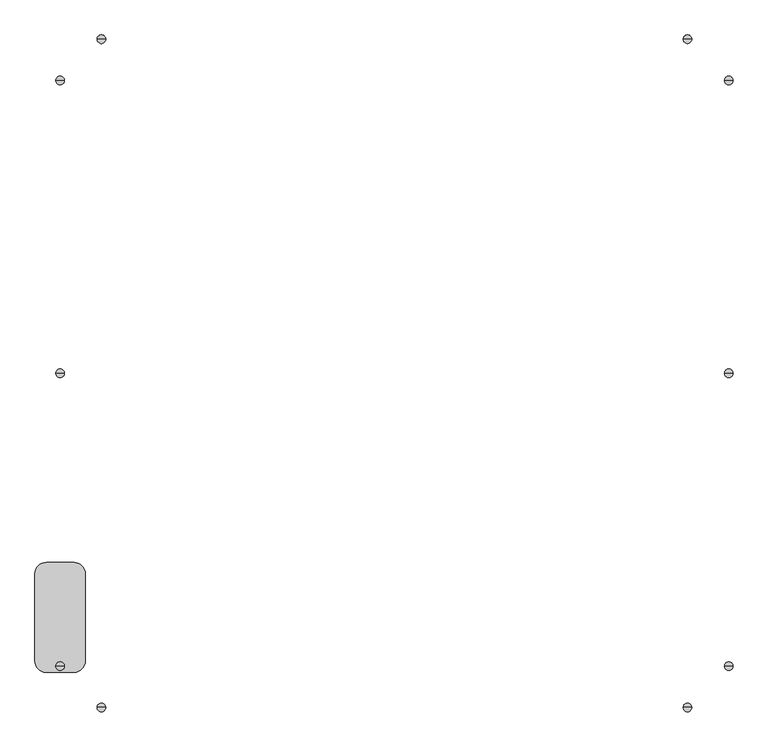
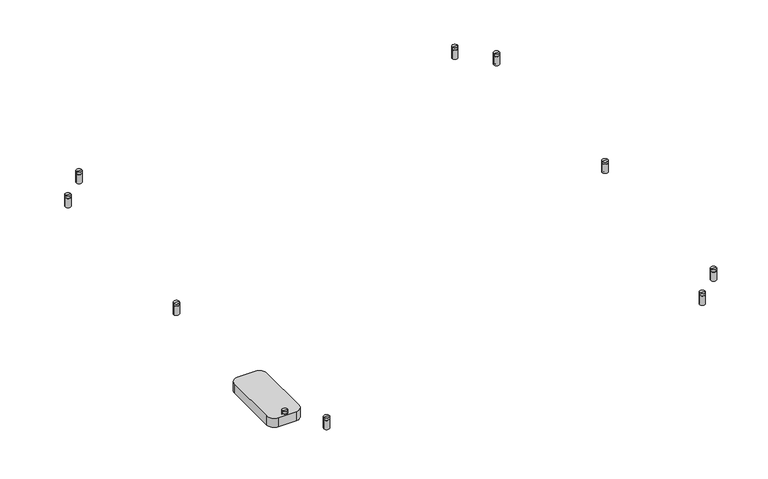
"""IFC4 building model written with IfcOpenShell, lengths in millimetres: light fixture geometry, ARTEMIDE-AoL-StandAlone-SquareRectangular_WallCeiling : StandALone_WallCeiling_SquareRectangular-1911x1911mm 14020lm 3000K."""

from ifc_helpers import new_model, si_unit, point, frame, frame_2d, origin, origin_with_axes, place, context, project, spatial, polyline, circle_curve, trimmed, segment, composite_curve, outline, extrude, source, transform, mapped, element, save
from ifc_brep_helpers import plane_surface, cylinder_surface, advanced_brep


def light_fixture_e9915f3b(model_context):
    return source(origin(), model_context, "Body", "SolidModel", [
        advanced_brep(
        [(152.0, 1746.0, 1.0), (128.0, 1746.0, 1.0), (134.5, 1746.0, 1.0), (145.5, 1746.0, 1.0), (152.0, 1746.0, 42.5), (128.0, 1746.0, 42.5), (149.5243756, 1746.0, 42.5), (130.4756244, 1746.0, 42.5), (149.5243756, 1746.0, 43.4995055), (130.4756244, 1746.0, 43.4995055), (152.0, 1746.0, 43.4995055), (128.0, 1746.0, 43.4995055), (152.0, 1746.0, 52.9579379), (128.0, 1746.0, 52.9579379), (140.0, 1746.0, 52.9579379), (145.5, 1746.0, 0.0), (134.5, 1746.0, 0.0), (140.0, 1746.0, 0.0)],
        [
            (0, 1, circle_curve(frame((140.0, 1746.0, 1.0), z_axis=(0.0, 0.0, -1.0), x_axis=(-1.0, 0.0, 0.0)), 12.0)),
            (1, 2),
            (2, 3, circle_curve(frame((140.0, 1746.0, 1.0), z_axis=(0.0, 0.0, 1.0), x_axis=(-1.0, 0.0, 0.0)), 5.5)),
            (3, 0),
            (1, 0, circle_curve(frame((140.0, 1746.0, 1.0), z_axis=(0.0, 0.0, -1.0), x_axis=(-1.0, 0.0, 0.0)), 12.0)),
            (3, 2, circle_curve(frame((140.0, 1746.0, 1.0), z_axis=(0.0, 0.0, 1.0), x_axis=(-1.0, 0.0, 0.0)), 5.5)),
            (4, 5, circle_curve(frame((140.0, 1746.0, 42.5), z_axis=(0.0, 0.0, -1.0), x_axis=(-1.0, 0.0, 0.0)), 12.0)),
            (5, 1),
            (0, 4),
            (5, 4, circle_curve(frame((140.0, 1746.0, 42.5), z_axis=(0.0, 0.0, -1.0), x_axis=(-1.0, 0.0, 0.0)), 12.0)),
            (6, 7, circle_curve(frame((140.0, 1746.0, 42.5), z_axis=(0.0, 0.0, -1.0), x_axis=(-1.0, 0.0, 0.0)), 9.5243756)),
            (7, 5),
            (4, 6),
            (7, 6, circle_curve(frame((140.0, 1746.0, 42.5), z_axis=(0.0, 0.0, -1.0), x_axis=(-1.0, 0.0, 0.0)), 9.5243756)),
            (8, 9, circle_curve(frame((140.0, 1746.0, 43.4995055), z_axis=(0.0, 0.0, -1.0), x_axis=(-1.0, 0.0, 0.0)), 9.5243756)),
            (9, 7),
            (6, 8),
            (9, 8, circle_curve(frame((140.0, 1746.0, 43.4995055), z_axis=(0.0, 0.0, -1.0), x_axis=(-1.0, 0.0, 0.0)), 9.5243756)),
            (10, 11, circle_curve(frame((140.0, 1746.0, 43.4995055), z_axis=(0.0, 0.0, -1.0), x_axis=(-1.0, 0.0, 0.0)), 12.0)),
            (11, 9),
            (8, 10),
            (11, 10, circle_curve(frame((140.0, 1746.0, 43.4995055), z_axis=(0.0, 0.0, -1.0), x_axis=(-1.0, 0.0, 0.0)), 12.0)),
            (12, 13, circle_curve(frame((140.0, 1746.0, 52.9579379), z_axis=(0.0, 0.0, -1.0), x_axis=(-1.0, 0.0, 0.0)), 12.0)),
            (13, 11),
            (10, 12),
            (13, 12, circle_curve(frame((140.0, 1746.0, 52.9579379), z_axis=(0.0, 0.0, -1.0), x_axis=(-1.0, 0.0, 0.0)), 12.0)),
            (14, 13),
            (12, 14),
            (15, 16, circle_curve(frame((140.0, 1746.0, 0.0), z_axis=(0.0, 0.0, -1.0), x_axis=(-1.0, 0.0, 0.0)), 5.5)),
            (16, 17),
            (17, 15),
            (16, 15, circle_curve(frame((140.0, 1746.0, 0.0), z_axis=(0.0, 0.0, -1.0), x_axis=(-1.0, 0.0, 0.0)), 5.5)),
            (2, 16),
            (15, 3),
        ],
        [
            plane_surface(frame((140.0, 1746.0, 1.0), z_axis=(0.0, 0.0, -1.0), x_axis=(-1.0, 0.0, 0.0))),
            cylinder_surface(frame((140.0, 1746.0, -58.83358), z_axis=(0.0, 0.0, 1.0), x_axis=(-1.0, 0.0, 0.0)), 12.0),
            plane_surface(frame((140.0, 1746.0, 42.5), z_axis=(0.0, 0.0, 1.0), x_axis=(-1.0, 0.0, 0.0))),
            cylinder_surface(frame((140.0, 1746.0, -58.83358), z_axis=(0.0, 0.0, 1.0), x_axis=(-1.0, 0.0, 0.0)), 9.5243756),
            plane_surface(frame((140.0, 1746.0, 43.4995055), z_axis=(0.0, 0.0, -1.0), x_axis=(-1.0, 0.0, 0.0))),
            plane_surface(frame((140.0, 1746.0, 52.9579379), z_axis=(0.0, 0.0, 1.0), x_axis=(-1.0, 0.0, 0.0))),
            plane_surface(frame((140.0, 1746.0, 0.0), z_axis=(0.0, 0.0, -1.0), x_axis=(-1.0, 0.0, 0.0))),
            cylinder_surface(frame((140.0, 1746.0, -58.83358), z_axis=(0.0, 0.0, 1.0), x_axis=(-1.0, 0.0, 0.0)), 5.5),
        ],
        [
            (0, [[1, 2, 3, 4]]),
            (0, [[5, -4, 6, -2]]),
            (1, [[7, 8, -1, 9]]),
            (1, [[10, -9, -5, -8]]),
            (2, [[11, 12, -7, 13]]),
            (2, [[14, -13, -10, -12]]),
            (3, [[15, 16, -11, 17]]),
            (3, [[18, -17, -14, -16]]),
            (4, [[19, 20, -15, 21]]),
            (4, [[22, -21, -18, -20]]),
            (1, [[23, 24, -19, 25]]),
            (1, [[26, -25, -22, -24]]),
            (5, [[27, -23, 28]]),
            (5, [[-28, -26, -27]]),
            (6, [[29, 30, 31]]),
            (6, [[32, -31, -30]]),
            (7, [[-3, 33, -29, 34]]),
            (7, [[-6, -34, -32, -33]]),
        ],
    ),
        advanced_brep(
        [(152.0, -115.0, 1.0), (128.0, -115.0, 1.0), (134.5, -115.0, 1.0), (145.5, -115.0, 1.0), (152.0, -115.0, 42.5), (128.0, -115.0, 42.5), (149.5243756, -115.0, 42.5), (130.4756244, -115.0, 42.5), (149.5243756, -115.0, 43.4995055), (130.4756244, -115.0, 43.4995055), (152.0, -115.0, 43.4995055), (128.0, -115.0, 43.4995055), (152.0, -115.0, 52.9579379), (128.0, -115.0, 52.9579379), (140.0, -115.0, 52.9579379), (145.5, -115.0, 0.0), (134.5, -115.0, 0.0), (140.0, -115.0, 0.0)],
        [
            (0, 1, circle_curve(frame((140.0, -115.0, 1.0), z_axis=(0.0, 0.0, -1.0), x_axis=(-1.0, 0.0, 0.0)), 12.0)),
            (1, 2),
            (2, 3, circle_curve(frame((140.0, -115.0, 1.0), z_axis=(0.0, 0.0, 1.0), x_axis=(-1.0, 0.0, 0.0)), 5.5)),
            (3, 0),
            (1, 0, circle_curve(frame((140.0, -115.0, 1.0), z_axis=(0.0, 0.0, -1.0), x_axis=(-1.0, 0.0, 0.0)), 12.0)),
            (3, 2, circle_curve(frame((140.0, -115.0, 1.0), z_axis=(0.0, 0.0, 1.0), x_axis=(-1.0, 0.0, 0.0)), 5.5)),
            (4, 5, circle_curve(frame((140.0, -115.0, 42.5), z_axis=(0.0, 0.0, -1.0), x_axis=(-1.0, 0.0, 0.0)), 12.0)),
            (5, 1),
            (0, 4),
            (5, 4, circle_curve(frame((140.0, -115.0, 42.5), z_axis=(0.0, 0.0, -1.0), x_axis=(-1.0, 0.0, 0.0)), 12.0)),
            (6, 7, circle_curve(frame((140.0, -115.0, 42.5), z_axis=(0.0, 0.0, -1.0), x_axis=(-1.0, 0.0, 0.0)), 9.5243756)),
            (7, 5),
            (4, 6),
            (7, 6, circle_curve(frame((140.0, -115.0, 42.5), z_axis=(0.0, 0.0, -1.0), x_axis=(-1.0, 0.0, 0.0)), 9.5243756)),
            (8, 9, circle_curve(frame((140.0, -115.0, 43.4995055), z_axis=(0.0, 0.0, -1.0), x_axis=(-1.0, 0.0, 0.0)), 9.5243756)),
            (9, 7),
            (6, 8),
            (9, 8, circle_curve(frame((140.0, -115.0, 43.4995055), z_axis=(0.0, 0.0, -1.0), x_axis=(-1.0, 0.0, 0.0)), 9.5243756)),
            (10, 11, circle_curve(frame((140.0, -115.0, 43.4995055), z_axis=(0.0, 0.0, -1.0), x_axis=(-1.0, 0.0, 0.0)), 12.0)),
            (11, 9),
            (8, 10),
            (11, 10, circle_curve(frame((140.0, -115.0, 43.4995055), z_axis=(0.0, 0.0, -1.0), x_axis=(-1.0, 0.0, 0.0)), 12.0)),
            (12, 13, circle_curve(frame((140.0, -115.0, 52.9579379), z_axis=(0.0, 0.0, -1.0), x_axis=(-1.0, 0.0, 0.0)), 12.0)),
            (13, 11),
            (10, 12),
            (13, 12, circle_curve(frame((140.0, -115.0, 52.9579379), z_axis=(0.0, 0.0, -1.0), x_axis=(-1.0, 0.0, 0.0)), 12.0)),
            (14, 13),
            (12, 14),
            (15, 16, circle_curve(frame((140.0, -115.0, 0.0), z_axis=(0.0, 0.0, -1.0), x_axis=(-1.0, 0.0, 0.0)), 5.5)),
            (16, 17),
            (17, 15),
            (16, 15, circle_curve(frame((140.0, -115.0, 0.0), z_axis=(0.0, 0.0, -1.0), x_axis=(-1.0, 0.0, 0.0)), 5.5)),
            (2, 16),
            (15, 3),
        ],
        [
            plane_surface(frame((140.0, -115.0, 1.0), z_axis=(0.0, 0.0, -1.0), x_axis=(-1.0, 0.0, 0.0))),
            cylinder_surface(frame((140.0, -115.0, -58.83358), z_axis=(0.0, 0.0, 1.0), x_axis=(-1.0, 0.0, 0.0)), 12.0),
            plane_surface(frame((140.0, -115.0, 42.5), z_axis=(0.0, 0.0, 1.0), x_axis=(-1.0, 0.0, 0.0))),
            cylinder_surface(frame((140.0, -115.0, -58.83358), z_axis=(0.0, 0.0, 1.0), x_axis=(-1.0, 0.0, 0.0)), 9.5243756),
            plane_surface(frame((140.0, -115.0, 43.4995055), z_axis=(0.0, 0.0, -1.0), x_axis=(-1.0, 0.0, 0.0))),
            plane_surface(frame((140.0, -115.0, 52.9579379), z_axis=(0.0, 0.0, 1.0), x_axis=(-1.0, 0.0, 0.0))),
            plane_surface(frame((140.0, -115.0, 0.0), z_axis=(0.0, 0.0, -1.0), x_axis=(-1.0, 0.0, 0.0))),
            cylinder_surface(frame((140.0, -115.0, -58.83358), z_axis=(0.0, 0.0, 1.0), x_axis=(-1.0, 0.0, 0.0)), 5.5),
        ],
        [
            (0, [[1, 2, 3, 4]]),
            (0, [[5, -4, 6, -2]]),
            (1, [[7, 8, -1, 9]]),
            (1, [[10, -9, -5, -8]]),
            (2, [[11, 12, -7, 13]]),
            (2, [[14, -13, -10, -12]]),
            (3, [[15, 16, -11, 17]]),
            (3, [[18, -17, -14, -16]]),
            (4, [[19, 20, -15, 21]]),
            (4, [[22, -21, -18, -20]]),
            (1, [[23, 24, -19, 25]]),
            (1, [[26, -25, -22, -24]]),
            (5, [[27, -23, 28]]),
            (5, [[-28, -26, -27]]),
            (6, [[29, 30, 31]]),
            (6, [[32, -31, -30]]),
            (7, [[-3, 33, -29, 34]]),
            (7, [[-6, -34, -32, -33]]),
        ],
    ),
        advanced_brep(
        [(1783.0, 1746.0, 1.0), (1759.0, 1746.0, 1.0), (1765.5, 1746.0, 1.0), (1776.5, 1746.0, 1.0), (1783.0, 1746.0, 42.5), (1759.0, 1746.0, 42.5), (1780.5243756, 1746.0, 42.5), (1761.4756244, 1746.0, 42.5), (1780.5243756, 1746.0, 43.4995055), (1761.4756244, 1746.0, 43.4995055), (1783.0, 1746.0, 43.4995055), (1759.0, 1746.0, 43.4995055), (1783.0, 1746.0, 52.9579379), (1759.0, 1746.0, 52.9579379), (1771.0, 1746.0, 52.9579379), (1776.5, 1746.0, 0.0), (1765.5, 1746.0, 0.0), (1771.0, 1746.0, 0.0)],
        [
            (0, 1, circle_curve(frame((1771.0, 1746.0, 1.0), z_axis=(0.0, 0.0, -1.0), x_axis=(-1.0, 0.0, 0.0)), 12.0)),
            (1, 2),
            (2, 3, circle_curve(frame((1771.0, 1746.0, 1.0), z_axis=(0.0, 0.0, 1.0), x_axis=(-1.0, 0.0, 0.0)), 5.5)),
            (3, 0),
            (1, 0, circle_curve(frame((1771.0, 1746.0, 1.0), z_axis=(0.0, 0.0, -1.0), x_axis=(-1.0, 0.0, 0.0)), 12.0)),
            (3, 2, circle_curve(frame((1771.0, 1746.0, 1.0), z_axis=(0.0, 0.0, 1.0), x_axis=(-1.0, 0.0, 0.0)), 5.5)),
            (4, 5, circle_curve(frame((1771.0, 1746.0, 42.5), z_axis=(0.0, 0.0, -1.0), x_axis=(-1.0, 0.0, 0.0)), 12.0)),
            (5, 1),
            (0, 4),
            (5, 4, circle_curve(frame((1771.0, 1746.0, 42.5), z_axis=(0.0, 0.0, -1.0), x_axis=(-1.0, 0.0, 0.0)), 12.0)),
            (6, 7, circle_curve(frame((1771.0, 1746.0, 42.5), z_axis=(0.0, 0.0, -1.0), x_axis=(-1.0, 0.0, 0.0)), 9.5243756)),
            (7, 5),
            (4, 6),
            (7, 6, circle_curve(frame((1771.0, 1746.0, 42.5), z_axis=(0.0, 0.0, -1.0), x_axis=(-1.0, 0.0, 0.0)), 9.5243756)),
            (8, 9, circle_curve(frame((1771.0, 1746.0, 43.4995055), z_axis=(0.0, 0.0, -1.0), x_axis=(-1.0, 0.0, 0.0)), 9.5243756)),
            (9, 7),
            (6, 8),
            (9, 8, circle_curve(frame((1771.0, 1746.0, 43.4995055), z_axis=(0.0, 0.0, -1.0), x_axis=(-1.0, 0.0, 0.0)), 9.5243756)),
            (10, 11, circle_curve(frame((1771.0, 1746.0, 43.4995055), z_axis=(0.0, 0.0, -1.0), x_axis=(-1.0, 0.0, 0.0)), 12.0)),
            (11, 9),
            (8, 10),
            (11, 10, circle_curve(frame((1771.0, 1746.0, 43.4995055), z_axis=(0.0, 0.0, -1.0), x_axis=(-1.0, 0.0, 0.0)), 12.0)),
            (12, 13, circle_curve(frame((1771.0, 1746.0, 52.9579379), z_axis=(0.0, 0.0, -1.0), x_axis=(-1.0, 0.0, 0.0)), 12.0)),
            (13, 11),
            (10, 12),
            (13, 12, circle_curve(frame((1771.0, 1746.0, 52.9579379), z_axis=(0.0, 0.0, -1.0), x_axis=(-1.0, 0.0, 0.0)), 12.0)),
            (14, 13),
            (12, 14),
            (15, 16, circle_curve(frame((1771.0, 1746.0, 0.0), z_axis=(0.0, 0.0, -1.0), x_axis=(-1.0, 0.0, 0.0)), 5.5)),
            (16, 17),
            (17, 15),
            (16, 15, circle_curve(frame((1771.0, 1746.0, 0.0), z_axis=(0.0, 0.0, -1.0), x_axis=(-1.0, 0.0, 0.0)), 5.5)),
            (2, 16),
            (15, 3),
        ],
        [
            plane_surface(frame((1771.0, 1746.0, 1.0), z_axis=(0.0, 0.0, -1.0), x_axis=(-1.0, 0.0, 0.0))),
            cylinder_surface(frame((1771.0, 1746.0, -58.83358), z_axis=(0.0, 0.0, 1.0), x_axis=(-1.0, 0.0, 0.0)), 12.0),
            plane_surface(frame((1771.0, 1746.0, 42.5), z_axis=(0.0, 0.0, 1.0), x_axis=(-1.0, 0.0, 0.0))),
            cylinder_surface(frame((1771.0, 1746.0, -58.83358), z_axis=(0.0, 0.0, 1.0), x_axis=(-1.0, 0.0, 0.0)), 9.5243756),
            plane_surface(frame((1771.0, 1746.0, 43.4995055), z_axis=(0.0, 0.0, -1.0), x_axis=(-1.0, 0.0, 0.0))),
            plane_surface(frame((1771.0, 1746.0, 52.9579379), z_axis=(0.0, 0.0, 1.0), x_axis=(-1.0, 0.0, 0.0))),
            plane_surface(frame((1771.0, 1746.0, 0.0), z_axis=(0.0, 0.0, -1.0), x_axis=(-1.0, 0.0, 0.0))),
            cylinder_surface(frame((1771.0, 1746.0, -58.83358), z_axis=(0.0, 0.0, 1.0), x_axis=(-1.0, 0.0, 0.0)), 5.5),
        ],
        [
            (0, [[1, 2, 3, 4]]),
            (0, [[5, -4, 6, -2]]),
            (1, [[7, 8, -1, 9]]),
            (1, [[10, -9, -5, -8]]),
            (2, [[11, 12, -7, 13]]),
            (2, [[14, -13, -10, -12]]),
            (3, [[15, 16, -11, 17]]),
            (3, [[18, -17, -14, -16]]),
            (4, [[19, 20, -15, 21]]),
            (4, [[22, -21, -18, -20]]),
            (1, [[23, 24, -19, 25]]),
            (1, [[26, -25, -22, -24]]),
            (5, [[27, -23, 28]]),
            (5, [[-28, -26, -27]]),
            (6, [[29, 30, 31]]),
            (6, [[32, -31, -30]]),
            (7, [[-3, 33, -29, 34]]),
            (7, [[-6, -34, -32, -33]]),
        ],
    ),
        advanced_brep(
        [(1783.0, -115.0, 1.0), (1759.0, -115.0, 1.0), (1765.5, -115.0, 1.0), (1776.5, -115.0, 1.0), (1783.0, -115.0, 42.5), (1759.0, -115.0, 42.5), (1780.5243756, -115.0, 42.5), (1761.4756244, -115.0, 42.5), (1780.5243756, -115.0, 43.4995055), (1761.4756244, -115.0, 43.4995055), (1783.0, -115.0, 43.4995055), (1759.0, -115.0, 43.4995055), (1783.0, -115.0, 52.9579379), (1759.0, -115.0, 52.9579379), (1771.0, -115.0, 52.9579379), (1776.5, -115.0, 0.0), (1765.5, -115.0, 0.0), (1771.0, -115.0, 0.0)],
        [
            (0, 1, circle_curve(frame((1771.0, -115.0, 1.0), z_axis=(0.0, 0.0, -1.0), x_axis=(-1.0, 0.0, 0.0)), 12.0)),
            (1, 2),
            (2, 3, circle_curve(frame((1771.0, -115.0, 1.0), z_axis=(0.0, 0.0, 1.0), x_axis=(-1.0, 0.0, 0.0)), 5.5)),
            (3, 0),
            (1, 0, circle_curve(frame((1771.0, -115.0, 1.0), z_axis=(0.0, 0.0, -1.0), x_axis=(-1.0, 0.0, 0.0)), 12.0)),
            (3, 2, circle_curve(frame((1771.0, -115.0, 1.0), z_axis=(0.0, 0.0, 1.0), x_axis=(-1.0, 0.0, 0.0)), 5.5)),
            (4, 5, circle_curve(frame((1771.0, -115.0, 42.5), z_axis=(0.0, 0.0, -1.0), x_axis=(-1.0, 0.0, 0.0)), 12.0)),
            (5, 1),
            (0, 4),
            (5, 4, circle_curve(frame((1771.0, -115.0, 42.5), z_axis=(0.0, 0.0, -1.0), x_axis=(-1.0, 0.0, 0.0)), 12.0)),
            (6, 7, circle_curve(frame((1771.0, -115.0, 42.5), z_axis=(0.0, 0.0, -1.0), x_axis=(-1.0, 0.0, 0.0)), 9.5243756)),
            (7, 5),
            (4, 6),
            (7, 6, circle_curve(frame((1771.0, -115.0, 42.5), z_axis=(0.0, 0.0, -1.0), x_axis=(-1.0, 0.0, 0.0)), 9.5243756)),
            (8, 9, circle_curve(frame((1771.0, -115.0, 43.4995055), z_axis=(0.0, 0.0, -1.0), x_axis=(-1.0, 0.0, 0.0)), 9.5243756)),
            (9, 7),
            (6, 8),
            (9, 8, circle_curve(frame((1771.0, -115.0, 43.4995055), z_axis=(0.0, 0.0, -1.0), x_axis=(-1.0, 0.0, 0.0)), 9.5243756)),
            (10, 11, circle_curve(frame((1771.0, -115.0, 43.4995055), z_axis=(0.0, 0.0, -1.0), x_axis=(-1.0, 0.0, 0.0)), 12.0)),
            (11, 9),
            (8, 10),
            (11, 10, circle_curve(frame((1771.0, -115.0, 43.4995055), z_axis=(0.0, 0.0, -1.0), x_axis=(-1.0, 0.0, 0.0)), 12.0)),
            (12, 13, circle_curve(frame((1771.0, -115.0, 52.9579379), z_axis=(0.0, 0.0, -1.0), x_axis=(-1.0, 0.0, 0.0)), 12.0)),
            (13, 11),
            (10, 12),
            (13, 12, circle_curve(frame((1771.0, -115.0, 52.9579379), z_axis=(0.0, 0.0, -1.0), x_axis=(-1.0, 0.0, 0.0)), 12.0)),
            (14, 13),
            (12, 14),
            (15, 16, circle_curve(frame((1771.0, -115.0, 0.0), z_axis=(0.0, 0.0, -1.0), x_axis=(-1.0, 0.0, 0.0)), 5.5)),
            (16, 17),
            (17, 15),
            (16, 15, circle_curve(frame((1771.0, -115.0, 0.0), z_axis=(0.0, 0.0, -1.0), x_axis=(-1.0, 0.0, 0.0)), 5.5)),
            (2, 16),
            (15, 3),
        ],
        [
            plane_surface(frame((1771.0, -115.0, 1.0), z_axis=(0.0, 0.0, -1.0), x_axis=(-1.0, 0.0, 0.0))),
            cylinder_surface(frame((1771.0, -115.0, -58.83358), z_axis=(0.0, 0.0, 1.0), x_axis=(-1.0, 0.0, 0.0)), 12.0),
            plane_surface(frame((1771.0, -115.0, 42.5), z_axis=(0.0, 0.0, 1.0), x_axis=(-1.0, 0.0, 0.0))),
            cylinder_surface(frame((1771.0, -115.0, -58.83358), z_axis=(0.0, 0.0, 1.0), x_axis=(-1.0, 0.0, 0.0)), 9.5243756),
            plane_surface(frame((1771.0, -115.0, 43.4995055), z_axis=(0.0, 0.0, -1.0), x_axis=(-1.0, 0.0, 0.0))),
            plane_surface(frame((1771.0, -115.0, 52.9579379), z_axis=(0.0, 0.0, 1.0), x_axis=(-1.0, 0.0, 0.0))),
            plane_surface(frame((1771.0, -115.0, 0.0), z_axis=(0.0, 0.0, -1.0), x_axis=(-1.0, 0.0, 0.0))),
            cylinder_surface(frame((1771.0, -115.0, -58.83358), z_axis=(0.0, 0.0, 1.0), x_axis=(-1.0, 0.0, 0.0)), 5.5),
        ],
        [
            (0, [[1, 2, 3, 4]]),
            (0, [[5, -4, 6, -2]]),
            (1, [[7, 8, -1, 9]]),
            (1, [[10, -9, -5, -8]]),
            (2, [[11, 12, -7, 13]]),
            (2, [[14, -13, -10, -12]]),
            (3, [[15, 16, -11, 17]]),
            (3, [[18, -17, -14, -16]]),
            (4, [[19, 20, -15, 21]]),
            (4, [[22, -21, -18, -20]]),
            (1, [[23, 24, -19, 25]]),
            (1, [[26, -25, -22, -24]]),
            (5, [[27, -23, 28]]),
            (5, [[-28, -26, -27]]),
            (6, [[29, 30, 31]]),
            (6, [[32, -31, -30]]),
            (7, [[-3, 33, -29, 34]]),
            (7, [[-6, -34, -32, -33]]),
        ],
    ),
        advanced_brep(
        [(37.0, 1631.0, 1.0), (13.0, 1631.0, 1.0), (19.5, 1631.0, 1.0), (30.5, 1631.0, 1.0), (37.0, 1631.0, 42.5), (13.0, 1631.0, 42.5), (34.5243756, 1631.0, 42.5), (15.4756244, 1631.0, 42.5), (34.5243756, 1631.0, 43.4995055), (15.4756244, 1631.0, 43.4995055), (37.0, 1631.0, 43.4995055), (13.0, 1631.0, 43.4995055), (37.0, 1631.0, 52.9579379), (13.0, 1631.0, 52.9579379), (25.0, 1631.0, 52.9579379), (30.5, 1631.0, 0.0), (19.5, 1631.0, 0.0), (25.0, 1631.0, 0.0)],
        [
            (0, 1, circle_curve(frame((25.0, 1631.0, 1.0), z_axis=(0.0, 0.0, -1.0), x_axis=(-1.0, 0.0, 0.0)), 12.0)),
            (1, 2),
            (2, 3, circle_curve(frame((25.0, 1631.0, 1.0), z_axis=(0.0, 0.0, 1.0), x_axis=(-1.0, 0.0, 0.0)), 5.5)),
            (3, 0),
            (1, 0, circle_curve(frame((25.0, 1631.0, 1.0), z_axis=(0.0, 0.0, -1.0), x_axis=(-1.0, 0.0, 0.0)), 12.0)),
            (3, 2, circle_curve(frame((25.0, 1631.0, 1.0), z_axis=(0.0, 0.0, 1.0), x_axis=(-1.0, 0.0, 0.0)), 5.5)),
            (4, 5, circle_curve(frame((25.0, 1631.0, 42.5), z_axis=(0.0, 0.0, -1.0), x_axis=(-1.0, 0.0, 0.0)), 12.0)),
            (5, 1),
            (0, 4),
            (5, 4, circle_curve(frame((25.0, 1631.0, 42.5), z_axis=(0.0, 0.0, -1.0), x_axis=(-1.0, 0.0, 0.0)), 12.0)),
            (6, 7, circle_curve(frame((25.0, 1631.0, 42.5), z_axis=(0.0, 0.0, -1.0), x_axis=(-1.0, 0.0, 0.0)), 9.5243756)),
            (7, 5),
            (4, 6),
            (7, 6, circle_curve(frame((25.0, 1631.0, 42.5), z_axis=(0.0, 0.0, -1.0), x_axis=(-1.0, 0.0, 0.0)), 9.5243756)),
            (8, 9, circle_curve(frame((25.0, 1631.0, 43.4995055), z_axis=(0.0, 0.0, -1.0), x_axis=(-1.0, 0.0, 0.0)), 9.5243756)),
            (9, 7),
            (6, 8),
            (9, 8, circle_curve(frame((25.0, 1631.0, 43.4995055), z_axis=(0.0, 0.0, -1.0), x_axis=(-1.0, 0.0, 0.0)), 9.5243756)),
            (10, 11, circle_curve(frame((25.0, 1631.0, 43.4995055), z_axis=(0.0, 0.0, -1.0), x_axis=(-1.0, 0.0, 0.0)), 12.0)),
            (11, 9),
            (8, 10),
            (11, 10, circle_curve(frame((25.0, 1631.0, 43.4995055), z_axis=(0.0, 0.0, -1.0), x_axis=(-1.0, 0.0, 0.0)), 12.0)),
            (12, 13, circle_curve(frame((25.0, 1631.0, 52.9579379), z_axis=(0.0, 0.0, -1.0), x_axis=(-1.0, 0.0, 0.0)), 12.0)),
            (13, 11),
            (10, 12),
            (13, 12, circle_curve(frame((25.0, 1631.0, 52.9579379), z_axis=(0.0, 0.0, -1.0), x_axis=(-1.0, 0.0, 0.0)), 12.0)),
            (14, 13),
            (12, 14),
            (15, 16, circle_curve(frame((25.0, 1631.0, 0.0), z_axis=(0.0, 0.0, -1.0), x_axis=(-1.0, 0.0, 0.0)), 5.5)),
            (16, 17),
            (17, 15),
            (16, 15, circle_curve(frame((25.0, 1631.0, 0.0), z_axis=(0.0, 0.0, -1.0), x_axis=(-1.0, 0.0, 0.0)), 5.5)),
            (2, 16),
            (15, 3),
        ],
        [
            plane_surface(frame((25.0, 1631.0, 1.0), z_axis=(0.0, 0.0, -1.0), x_axis=(-1.0, 0.0, 0.0))),
            cylinder_surface(frame((25.0, 1631.0, -58.83358), z_axis=(0.0, 0.0, 1.0), x_axis=(-1.0, 0.0, 0.0)), 12.0),
            plane_surface(frame((25.0, 1631.0, 42.5), z_axis=(0.0, 0.0, 1.0), x_axis=(-1.0, 0.0, 0.0))),
            cylinder_surface(frame((25.0, 1631.0, -58.83358), z_axis=(0.0, 0.0, 1.0), x_axis=(-1.0, 0.0, 0.0)), 9.5243756),
            plane_surface(frame((25.0, 1631.0, 43.4995055), z_axis=(0.0, 0.0, -1.0), x_axis=(-1.0, 0.0, 0.0))),
            plane_surface(frame((25.0, 1631.0, 52.9579379), z_axis=(0.0, 0.0, 1.0), x_axis=(-1.0, 0.0, 0.0))),
            plane_surface(frame((25.0, 1631.0, 0.0), z_axis=(0.0, 0.0, -1.0), x_axis=(-1.0, 0.0, 0.0))),
            cylinder_surface(frame((25.0, 1631.0, -58.83358), z_axis=(0.0, 0.0, 1.0), x_axis=(-1.0, 0.0, 0.0)), 5.5),
        ],
        [
            (0, [[1, 2, 3, 4]]),
            (0, [[5, -4, 6, -2]]),
            (1, [[7, 8, -1, 9]]),
            (1, [[10, -9, -5, -8]]),
            (2, [[11, 12, -7, 13]]),
            (2, [[14, -13, -10, -12]]),
            (3, [[15, 16, -11, 17]]),
            (3, [[18, -17, -14, -16]]),
            (4, [[19, 20, -15, 21]]),
            (4, [[22, -21, -18, -20]]),
            (1, [[23, 24, -19, 25]]),
            (1, [[26, -25, -22, -24]]),
            (5, [[27, -23, 28]]),
            (5, [[-28, -26, -27]]),
            (6, [[29, 30, 31]]),
            (6, [[32, -31, -30]]),
            (7, [[-3, 33, -29, 34]]),
            (7, [[-6, -34, -32, -33]]),
        ],
    ),
        advanced_brep(
        [(1898.0, 1631.0, 1.0), (1874.0, 1631.0, 1.0), (1880.5, 1631.0, 1.0), (1891.5, 1631.0, 1.0), (1898.0, 1631.0, 42.5), (1874.0, 1631.0, 42.5), (1895.5243756, 1631.0, 42.5), (1876.4756244, 1631.0, 42.5), (1895.5243756, 1631.0, 43.4995055), (1876.4756244, 1631.0, 43.4995055), (1898.0, 1631.0, 43.4995055), (1874.0, 1631.0, 43.4995055), (1898.0, 1631.0, 52.9579379), (1874.0, 1631.0, 52.9579379), (1886.0, 1631.0, 52.9579379), (1891.5, 1631.0, 0.0), (1880.5, 1631.0, 0.0), (1886.0, 1631.0, 0.0)],
        [
            (0, 1, circle_curve(frame((1886.0, 1631.0, 1.0), z_axis=(0.0, 0.0, -1.0), x_axis=(-1.0, 0.0, 0.0)), 12.0)),
            (1, 2),
            (2, 3, circle_curve(frame((1886.0, 1631.0, 1.0), z_axis=(0.0, 0.0, 1.0), x_axis=(-1.0, 0.0, 0.0)), 5.5)),
            (3, 0),
            (1, 0, circle_curve(frame((1886.0, 1631.0, 1.0), z_axis=(0.0, 0.0, -1.0), x_axis=(-1.0, 0.0, 0.0)), 12.0)),
            (3, 2, circle_curve(frame((1886.0, 1631.0, 1.0), z_axis=(0.0, 0.0, 1.0), x_axis=(-1.0, 0.0, 0.0)), 5.5)),
            (4, 5, circle_curve(frame((1886.0, 1631.0, 42.5), z_axis=(0.0, 0.0, -1.0), x_axis=(-1.0, 0.0, 0.0)), 12.0)),
            (5, 1),
            (0, 4),
            (5, 4, circle_curve(frame((1886.0, 1631.0, 42.5), z_axis=(0.0, 0.0, -1.0), x_axis=(-1.0, 0.0, 0.0)), 12.0)),
            (6, 7, circle_curve(frame((1886.0, 1631.0, 42.5), z_axis=(0.0, 0.0, -1.0), x_axis=(-1.0, 0.0, 0.0)), 9.5243756)),
            (7, 5),
            (4, 6),
            (7, 6, circle_curve(frame((1886.0, 1631.0, 42.5), z_axis=(0.0, 0.0, -1.0), x_axis=(-1.0, 0.0, 0.0)), 9.5243756)),
            (8, 9, circle_curve(frame((1886.0, 1631.0, 43.4995055), z_axis=(0.0, 0.0, -1.0), x_axis=(-1.0, 0.0, 0.0)), 9.5243756)),
            (9, 7),
            (6, 8),
            (9, 8, circle_curve(frame((1886.0, 1631.0, 43.4995055), z_axis=(0.0, 0.0, -1.0), x_axis=(-1.0, 0.0, 0.0)), 9.5243756)),
            (10, 11, circle_curve(frame((1886.0, 1631.0, 43.4995055), z_axis=(0.0, 0.0, -1.0), x_axis=(-1.0, 0.0, 0.0)), 12.0)),
            (11, 9),
            (8, 10),
            (11, 10, circle_curve(frame((1886.0, 1631.0, 43.4995055), z_axis=(0.0, 0.0, -1.0), x_axis=(-1.0, 0.0, 0.0)), 12.0)),
            (12, 13, circle_curve(frame((1886.0, 1631.0, 52.9579379), z_axis=(0.0, 0.0, -1.0), x_axis=(-1.0, 0.0, 0.0)), 12.0)),
            (13, 11),
            (10, 12),
            (13, 12, circle_curve(frame((1886.0, 1631.0, 52.9579379), z_axis=(0.0, 0.0, -1.0), x_axis=(-1.0, 0.0, 0.0)), 12.0)),
            (14, 13),
            (12, 14),
            (15, 16, circle_curve(frame((1886.0, 1631.0, 0.0), z_axis=(0.0, 0.0, -1.0), x_axis=(-1.0, 0.0, 0.0)), 5.5)),
            (16, 17),
            (17, 15),
            (16, 15, circle_curve(frame((1886.0, 1631.0, 0.0), z_axis=(0.0, 0.0, -1.0), x_axis=(-1.0, 0.0, 0.0)), 5.5)),
            (2, 16),
            (15, 3),
        ],
        [
            plane_surface(frame((1886.0, 1631.0, 1.0), z_axis=(0.0, 0.0, -1.0), x_axis=(-1.0, 0.0, 0.0))),
            cylinder_surface(frame((1886.0, 1631.0, -58.83358), z_axis=(0.0, 0.0, 1.0), x_axis=(-1.0, 0.0, 0.0)), 12.0),
            plane_surface(frame((1886.0, 1631.0, 42.5), z_axis=(0.0, 0.0, 1.0), x_axis=(-1.0, 0.0, 0.0))),
            cylinder_surface(frame((1886.0, 1631.0, -58.83358), z_axis=(0.0, 0.0, 1.0), x_axis=(-1.0, 0.0, 0.0)), 9.5243756),
            plane_surface(frame((1886.0, 1631.0, 43.4995055), z_axis=(0.0, 0.0, -1.0), x_axis=(-1.0, 0.0, 0.0))),
            plane_surface(frame((1886.0, 1631.0, 52.9579379), z_axis=(0.0, 0.0, 1.0), x_axis=(-1.0, 0.0, 0.0))),
            plane_surface(frame((1886.0, 1631.0, 0.0), z_axis=(0.0, 0.0, -1.0), x_axis=(-1.0, 0.0, 0.0))),
            cylinder_surface(frame((1886.0, 1631.0, -58.83358), z_axis=(0.0, 0.0, 1.0), x_axis=(-1.0, 0.0, 0.0)), 5.5),
        ],
        [
            (0, [[1, 2, 3, 4]]),
            (0, [[5, -4, 6, -2]]),
            (1, [[7, 8, -1, 9]]),
            (1, [[10, -9, -5, -8]]),
            (2, [[11, 12, -7, 13]]),
            (2, [[14, -13, -10, -12]]),
            (3, [[15, 16, -11, 17]]),
            (3, [[18, -17, -14, -16]]),
            (4, [[19, 20, -15, 21]]),
            (4, [[22, -21, -18, -20]]),
            (1, [[23, 24, -19, 25]]),
            (1, [[26, -25, -22, -24]]),
            (5, [[27, -23, 28]]),
            (5, [[-28, -26, -27]]),
            (6, [[29, 30, 31]]),
            (6, [[32, -31, -30]]),
            (7, [[-3, 33, -29, 34]]),
            (7, [[-6, -34, -32, -33]]),
        ],
    ),
        advanced_brep(
        [(37.0, 0.0, 1.0), (13.0, 0.0, 1.0), (19.5, 0.0, 1.0), (30.5, 0.0, 1.0), (37.0, 0.0, 42.5), (13.0, 0.0, 42.5), (34.5243756, 0.0, 42.5), (15.4756244, 0.0, 42.5), (34.5243756, 0.0, 43.4995055), (15.4756244, 0.0, 43.4995055), (37.0, 0.0, 43.4995055), (13.0, 0.0, 43.4995055), (37.0, 0.0, 52.9579379), (13.0, 0.0, 52.9579379), (25.0, 0.0, 52.9579379), (30.5, 0.0, 0.0), (19.5, 0.0, 0.0), (25.0, 0.0, 0.0)],
        [
            (0, 1, circle_curve(frame((25.0, 0.0, 1.0), z_axis=(0.0, 0.0, -1.0), x_axis=(-1.0, 0.0, 0.0)), 12.0)),
            (1, 2),
            (2, 3, circle_curve(frame((25.0, 0.0, 1.0), z_axis=(0.0, 0.0, 1.0), x_axis=(-1.0, 0.0, 0.0)), 5.5)),
            (3, 0),
            (1, 0, circle_curve(frame((25.0, 0.0, 1.0), z_axis=(0.0, 0.0, -1.0), x_axis=(-1.0, 0.0, 0.0)), 12.0)),
            (3, 2, circle_curve(frame((25.0, 0.0, 1.0), z_axis=(0.0, 0.0, 1.0), x_axis=(-1.0, 0.0, 0.0)), 5.5)),
            (4, 5, circle_curve(frame((25.0, 0.0, 42.5), z_axis=(0.0, 0.0, -1.0), x_axis=(-1.0, 0.0, 0.0)), 12.0)),
            (5, 1),
            (0, 4),
            (5, 4, circle_curve(frame((25.0, 0.0, 42.5), z_axis=(0.0, 0.0, -1.0), x_axis=(-1.0, 0.0, 0.0)), 12.0)),
            (6, 7, circle_curve(frame((25.0, 0.0, 42.5), z_axis=(0.0, 0.0, -1.0), x_axis=(-1.0, 0.0, 0.0)), 9.5243756)),
            (7, 5),
            (4, 6),
            (7, 6, circle_curve(frame((25.0, 0.0, 42.5), z_axis=(0.0, 0.0, -1.0), x_axis=(-1.0, 0.0, 0.0)), 9.5243756)),
            (8, 9, circle_curve(frame((25.0, 0.0, 43.4995055), z_axis=(0.0, 0.0, -1.0), x_axis=(-1.0, 0.0, 0.0)), 9.5243756)),
            (9, 7),
            (6, 8),
            (9, 8, circle_curve(frame((25.0, 0.0, 43.4995055), z_axis=(0.0, 0.0, -1.0), x_axis=(-1.0, 0.0, 0.0)), 9.5243756)),
            (10, 11, circle_curve(frame((25.0, 0.0, 43.4995055), z_axis=(0.0, 0.0, -1.0), x_axis=(-1.0, 0.0, 0.0)), 12.0)),
            (11, 9),
            (8, 10),
            (11, 10, circle_curve(frame((25.0, 0.0, 43.4995055), z_axis=(0.0, 0.0, -1.0), x_axis=(-1.0, 0.0, 0.0)), 12.0)),
            (12, 13, circle_curve(frame((25.0, 0.0, 52.9579379), z_axis=(0.0, 0.0, -1.0), x_axis=(-1.0, 0.0, 0.0)), 12.0)),
            (13, 11),
            (10, 12),
            (13, 12, circle_curve(frame((25.0, 0.0, 52.9579379), z_axis=(0.0, 0.0, -1.0), x_axis=(-1.0, 0.0, 0.0)), 12.0)),
            (14, 13),
            (12, 14),
            (15, 16, circle_curve(frame((25.0, 0.0, 0.0), z_axis=(0.0, 0.0, -1.0), x_axis=(-1.0, 0.0, 0.0)), 5.5)),
            (16, 17),
            (17, 15),
            (16, 15, circle_curve(frame((25.0, 0.0, 0.0), z_axis=(0.0, 0.0, -1.0), x_axis=(-1.0, 0.0, 0.0)), 5.5)),
            (2, 16),
            (15, 3),
        ],
        [
            plane_surface(frame((25.0, 0.0, 1.0), z_axis=(0.0, 0.0, -1.0), x_axis=(-1.0, 0.0, 0.0))),
            cylinder_surface(frame((25.0, 0.0, -58.83358), z_axis=(0.0, 0.0, 1.0), x_axis=(-1.0, 0.0, 0.0)), 12.0),
            plane_surface(frame((25.0, 0.0, 42.5), z_axis=(0.0, 0.0, 1.0), x_axis=(-1.0, 0.0, 0.0))),
            cylinder_surface(frame((25.0, 0.0, -58.83358), z_axis=(0.0, 0.0, 1.0), x_axis=(-1.0, 0.0, 0.0)), 9.5243756),
            plane_surface(frame((25.0, 0.0, 43.4995055), z_axis=(0.0, 0.0, -1.0), x_axis=(-1.0, 0.0, 0.0))),
            plane_surface(frame((25.0, 0.0, 52.9579379), z_axis=(0.0, 0.0, 1.0), x_axis=(-1.0, 0.0, 0.0))),
            plane_surface(frame((25.0, 0.0, 0.0), z_axis=(0.0, 0.0, -1.0), x_axis=(-1.0, 0.0, 0.0))),
            cylinder_surface(frame((25.0, 0.0, -58.83358), z_axis=(0.0, 0.0, 1.0), x_axis=(-1.0, 0.0, 0.0)), 5.5),
        ],
        [
            (0, [[1, 2, 3, 4]]),
            (0, [[5, -4, 6, -2]]),
            (1, [[7, 8, -1, 9]]),
            (1, [[10, -9, -5, -8]]),
            (2, [[11, 12, -7, 13]]),
            (2, [[14, -13, -10, -12]]),
            (3, [[15, 16, -11, 17]]),
            (3, [[18, -17, -14, -16]]),
            (4, [[19, 20, -15, 21]]),
            (4, [[22, -21, -18, -20]]),
            (1, [[23, 24, -19, 25]]),
            (1, [[26, -25, -22, -24]]),
            (5, [[27, -23, 28]]),
            (5, [[-28, -26, -27]]),
            (6, [[29, 30, 31]]),
            (6, [[32, -31, -30]]),
            (7, [[-3, 33, -29, 34]]),
            (7, [[-6, -34, -32, -33]]),
        ],
    ),
        advanced_brep(
        [(1898.0, 0.0, 1.0), (1874.0, 0.0, 1.0), (1880.5, 0.0, 1.0), (1891.5, 0.0, 1.0), (1898.0, 0.0, 42.5), (1874.0, 0.0, 42.5), (1895.5243756, 0.0, 42.5), (1876.4756244, 0.0, 42.5), (1895.5243756, 0.0, 43.4995055), (1876.4756244, 0.0, 43.4995055), (1898.0, 0.0, 43.4995055), (1874.0, 0.0, 43.4995055), (1898.0, 0.0, 52.9579379), (1874.0, 0.0, 52.9579379), (1886.0, 0.0, 52.9579379), (1891.5, 0.0, 0.0), (1880.5, 0.0, 0.0), (1886.0, 0.0, 0.0)],
        [
            (0, 1, circle_curve(frame((1886.0, 0.0, 1.0), z_axis=(0.0, 0.0, -1.0), x_axis=(-1.0, 0.0, 0.0)), 12.0)),
            (1, 2),
            (2, 3, circle_curve(frame((1886.0, 0.0, 1.0), z_axis=(0.0, 0.0, 1.0), x_axis=(-1.0, 0.0, 0.0)), 5.5)),
            (3, 0),
            (1, 0, circle_curve(frame((1886.0, 0.0, 1.0), z_axis=(0.0, 0.0, -1.0), x_axis=(-1.0, 0.0, 0.0)), 12.0)),
            (3, 2, circle_curve(frame((1886.0, 0.0, 1.0), z_axis=(0.0, 0.0, 1.0), x_axis=(-1.0, 0.0, 0.0)), 5.5)),
            (4, 5, circle_curve(frame((1886.0, 0.0, 42.5), z_axis=(0.0, 0.0, -1.0), x_axis=(-1.0, 0.0, 0.0)), 12.0)),
            (5, 1),
            (0, 4),
            (5, 4, circle_curve(frame((1886.0, 0.0, 42.5), z_axis=(0.0, 0.0, -1.0), x_axis=(-1.0, 0.0, 0.0)), 12.0)),
            (6, 7, circle_curve(frame((1886.0, 0.0, 42.5), z_axis=(0.0, 0.0, -1.0), x_axis=(-1.0, 0.0, 0.0)), 9.5243756)),
            (7, 5),
            (4, 6),
            (7, 6, circle_curve(frame((1886.0, 0.0, 42.5), z_axis=(0.0, 0.0, -1.0), x_axis=(-1.0, 0.0, 0.0)), 9.5243756)),
            (8, 9, circle_curve(frame((1886.0, 0.0, 43.4995055), z_axis=(0.0, 0.0, -1.0), x_axis=(-1.0, 0.0, 0.0)), 9.5243756)),
            (9, 7),
            (6, 8),
            (9, 8, circle_curve(frame((1886.0, 0.0, 43.4995055), z_axis=(0.0, 0.0, -1.0), x_axis=(-1.0, 0.0, 0.0)), 9.5243756)),
            (10, 11, circle_curve(frame((1886.0, 0.0, 43.4995055), z_axis=(0.0, 0.0, -1.0), x_axis=(-1.0, 0.0, 0.0)), 12.0)),
            (11, 9),
            (8, 10),
            (11, 10, circle_curve(frame((1886.0, 0.0, 43.4995055), z_axis=(0.0, 0.0, -1.0), x_axis=(-1.0, 0.0, 0.0)), 12.0)),
            (12, 13, circle_curve(frame((1886.0, 0.0, 52.9579379), z_axis=(0.0, 0.0, -1.0), x_axis=(-1.0, 0.0, 0.0)), 12.0)),
            (13, 11),
            (10, 12),
            (13, 12, circle_curve(frame((1886.0, 0.0, 52.9579379), z_axis=(0.0, 0.0, -1.0), x_axis=(-1.0, 0.0, 0.0)), 12.0)),
            (14, 13),
            (12, 14),
            (15, 16, circle_curve(frame((1886.0, 0.0, 0.0), z_axis=(0.0, 0.0, -1.0), x_axis=(-1.0, 0.0, 0.0)), 5.5)),
            (16, 17),
            (17, 15),
            (16, 15, circle_curve(frame((1886.0, 0.0, 0.0), z_axis=(0.0, 0.0, -1.0), x_axis=(-1.0, 0.0, 0.0)), 5.5)),
            (2, 16),
            (15, 3),
        ],
        [
            plane_surface(frame((1886.0, 0.0, 1.0), z_axis=(0.0, 0.0, -1.0), x_axis=(-1.0, 0.0, 0.0))),
            cylinder_surface(frame((1886.0, 0.0, -58.83358), z_axis=(0.0, 0.0, 1.0), x_axis=(-1.0, 0.0, 0.0)), 12.0),
            plane_surface(frame((1886.0, 0.0, 42.5), z_axis=(0.0, 0.0, 1.0), x_axis=(-1.0, 0.0, 0.0))),
            cylinder_surface(frame((1886.0, 0.0, -58.83358), z_axis=(0.0, 0.0, 1.0), x_axis=(-1.0, 0.0, 0.0)), 9.5243756),
            plane_surface(frame((1886.0, 0.0, 43.4995055), z_axis=(0.0, 0.0, -1.0), x_axis=(-1.0, 0.0, 0.0))),
            plane_surface(frame((1886.0, 0.0, 52.9579379), z_axis=(0.0, 0.0, 1.0), x_axis=(-1.0, 0.0, 0.0))),
            plane_surface(frame((1886.0, 0.0, 0.0), z_axis=(0.0, 0.0, -1.0), x_axis=(-1.0, 0.0, 0.0))),
            cylinder_surface(frame((1886.0, 0.0, -58.83358), z_axis=(0.0, 0.0, 1.0), x_axis=(-1.0, 0.0, 0.0)), 5.5),
        ],
        [
            (0, [[1, 2, 3, 4]]),
            (0, [[5, -4, 6, -2]]),
            (1, [[7, 8, -1, 9]]),
            (1, [[10, -9, -5, -8]]),
            (2, [[11, 12, -7, 13]]),
            (2, [[14, -13, -10, -12]]),
            (3, [[15, 16, -11, 17]]),
            (3, [[18, -17, -14, -16]]),
            (4, [[19, 20, -15, 21]]),
            (4, [[22, -21, -18, -20]]),
            (1, [[23, 24, -19, 25]]),
            (1, [[26, -25, -22, -24]]),
            (5, [[27, -23, 28]]),
            (5, [[-28, -26, -27]]),
            (6, [[29, 30, 31]]),
            (6, [[32, -31, -30]]),
            (7, [[-3, 33, -29, 34]]),
            (7, [[-6, -34, -32, -33]]),
        ],
    ),
        advanced_brep(
        [(37.0, 815.5, 1.0), (13.0, 815.5, 1.0), (19.5, 815.5, 1.0), (30.5, 815.5, 1.0), (37.0, 815.5, 42.5), (13.0, 815.5, 42.5), (34.5243756, 815.5, 42.5), (15.4756244, 815.5, 42.5), (34.5243756, 815.5, 43.4995055), (15.4756244, 815.5, 43.4995055), (37.0, 815.5, 43.4995055), (13.0, 815.5, 43.4995055), (37.0, 815.5, 52.9579379), (13.0, 815.5, 52.9579379), (25.0, 815.5, 52.9579379), (30.5, 815.5, 0.0), (19.5, 815.5, 0.0), (25.0, 815.5, 0.0)],
        [
            (0, 1, circle_curve(frame((25.0, 815.5, 1.0), z_axis=(0.0, 0.0, -1.0), x_axis=(-1.0, 0.0, 0.0)), 12.0)),
            (1, 2),
            (2, 3, circle_curve(frame((25.0, 815.5, 1.0), z_axis=(0.0, 0.0, 1.0), x_axis=(-1.0, 0.0, 0.0)), 5.5)),
            (3, 0),
            (1, 0, circle_curve(frame((25.0, 815.5, 1.0), z_axis=(0.0, 0.0, -1.0), x_axis=(-1.0, 0.0, 0.0)), 12.0)),
            (3, 2, circle_curve(frame((25.0, 815.5, 1.0), z_axis=(0.0, 0.0, 1.0), x_axis=(-1.0, 0.0, 0.0)), 5.5)),
            (4, 5, circle_curve(frame((25.0, 815.5, 42.5), z_axis=(0.0, 0.0, -1.0), x_axis=(-1.0, 0.0, 0.0)), 12.0)),
            (5, 1),
            (0, 4),
            (5, 4, circle_curve(frame((25.0, 815.5, 42.5), z_axis=(0.0, 0.0, -1.0), x_axis=(-1.0, 0.0, 0.0)), 12.0)),
            (6, 7, circle_curve(frame((25.0, 815.5, 42.5), z_axis=(0.0, 0.0, -1.0), x_axis=(-1.0, 0.0, 0.0)), 9.5243756)),
            (7, 5),
            (4, 6),
            (7, 6, circle_curve(frame((25.0, 815.5, 42.5), z_axis=(0.0, 0.0, -1.0), x_axis=(-1.0, 0.0, 0.0)), 9.5243756)),
            (8, 9, circle_curve(frame((25.0, 815.5, 43.4995055), z_axis=(0.0, 0.0, -1.0), x_axis=(-1.0, 0.0, 0.0)), 9.5243756)),
            (9, 7),
            (6, 8),
            (9, 8, circle_curve(frame((25.0, 815.5, 43.4995055), z_axis=(0.0, 0.0, -1.0), x_axis=(-1.0, 0.0, 0.0)), 9.5243756)),
            (10, 11, circle_curve(frame((25.0, 815.5, 43.4995055), z_axis=(0.0, 0.0, -1.0), x_axis=(-1.0, 0.0, 0.0)), 12.0)),
            (11, 9),
            (8, 10),
            (11, 10, circle_curve(frame((25.0, 815.5, 43.4995055), z_axis=(0.0, 0.0, -1.0), x_axis=(-1.0, 0.0, 0.0)), 12.0)),
            (12, 13, circle_curve(frame((25.0, 815.5, 52.9579379), z_axis=(0.0, 0.0, -1.0), x_axis=(-1.0, 0.0, 0.0)), 12.0)),
            (13, 11),
            (10, 12),
            (13, 12, circle_curve(frame((25.0, 815.5, 52.9579379), z_axis=(0.0, 0.0, -1.0), x_axis=(-1.0, 0.0, 0.0)), 12.0)),
            (14, 13),
            (12, 14),
            (15, 16, circle_curve(frame((25.0, 815.5, 0.0), z_axis=(0.0, 0.0, -1.0), x_axis=(-1.0, 0.0, 0.0)), 5.5)),
            (16, 17),
            (17, 15),
            (16, 15, circle_curve(frame((25.0, 815.5, 0.0), z_axis=(0.0, 0.0, -1.0), x_axis=(-1.0, 0.0, 0.0)), 5.5)),
            (2, 16),
            (15, 3),
        ],
        [
            plane_surface(frame((25.0, 815.5, 1.0), z_axis=(0.0, 0.0, -1.0), x_axis=(-1.0, 0.0, 0.0))),
            cylinder_surface(frame((25.0, 815.5, -58.83358), z_axis=(0.0, 0.0, 1.0), x_axis=(-1.0, 0.0, 0.0)), 12.0),
            plane_surface(frame((25.0, 815.5, 42.5), z_axis=(0.0, 0.0, 1.0), x_axis=(-1.0, 0.0, 0.0))),
            cylinder_surface(frame((25.0, 815.5, -58.83358), z_axis=(0.0, 0.0, 1.0), x_axis=(-1.0, 0.0, 0.0)), 9.5243756),
            plane_surface(frame((25.0, 815.5, 43.4995055), z_axis=(0.0, 0.0, -1.0), x_axis=(-1.0, 0.0, 0.0))),
            plane_surface(frame((25.0, 815.5, 52.9579379), z_axis=(0.0, 0.0, 1.0), x_axis=(-1.0, 0.0, 0.0))),
            plane_surface(frame((25.0, 815.5, 0.0), z_axis=(0.0, 0.0, -1.0), x_axis=(-1.0, 0.0, 0.0))),
            cylinder_surface(frame((25.0, 815.5, -58.83358), z_axis=(0.0, 0.0, 1.0), x_axis=(-1.0, 0.0, 0.0)), 5.5),
        ],
        [
            (0, [[1, 2, 3, 4]]),
            (0, [[5, -4, 6, -2]]),
            (1, [[7, 8, -1, 9]]),
            (1, [[10, -9, -5, -8]]),
            (2, [[11, 12, -7, 13]]),
            (2, [[14, -13, -10, -12]]),
            (3, [[15, 16, -11, 17]]),
            (3, [[18, -17, -14, -16]]),
            (4, [[19, 20, -15, 21]]),
            (4, [[22, -21, -18, -20]]),
            (1, [[23, 24, -19, 25]]),
            (1, [[26, -25, -22, -24]]),
            (5, [[27, -23, 28]]),
            (5, [[-28, -26, -27]]),
            (6, [[29, 30, 31]]),
            (6, [[32, -31, -30]]),
            (7, [[-3, 33, -29, 34]]),
            (7, [[-6, -34, -32, -33]]),
        ],
    ),
        extrude(outline(composite_curve([segment(polyline([(-45.020892, 13.8708919), (-45.020892, 257.6791081)]), True, "CONTINUOUS"), segment(trimmed(circle_curve(frame_2d((-14.1500001, 257.6791081)), 30.8708919), [point((-45.020892, 257.6791081))], [point((-14.1500001, 288.55))], False, "CARTESIAN"), True, "CONTINUOUS"), segment(polyline([(-14.1500001, 288.55), (64.2, 288.55)]), True, "CONTINUOUS"), segment(trimmed(circle_curve(frame_2d((64.2, 257.6791081)), 30.8708919), [point((64.2, 288.55))], [point((95.0708919, 257.6791081))], False, "CARTESIAN"), True, "CONTINUOUS"), segment(polyline([(95.0708919, 257.6791081), (95.0708919, 13.8708919)]), True, "CONTINUOUS"), segment(trimmed(circle_curve(frame_2d((64.2, 13.8708919)), 30.8708919), [point((95.0708919, 13.8708919))], [point((64.2, -17.0))], False, "CARTESIAN"), True, "CONTINUOUS"), segment(polyline([(64.2, -17.0), (-14.1500001, -17.0)]), True, "CONTINUOUS"), segment(trimmed(circle_curve(frame_2d((-14.1500001, 13.8708919)), 30.8708919), [point((-14.1500001, -17.0))], [point((-45.020892, 13.8708919))], False, "CARTESIAN"), True, "CONTINUOUS")], self_intersect=False)), origin_with_axes(), (0.0, 0.0, 1.0), 42.0),
        advanced_brep(
        [(1898.0, 815.5, 1.0), (1874.0, 815.5, 1.0), (1880.5, 815.5, 1.0), (1891.5, 815.5, 1.0), (1898.0, 815.5, 42.5), (1874.0, 815.5, 42.5), (1895.5243756, 815.5, 42.5), (1876.4756244, 815.5, 42.5), (1895.5243756, 815.5, 43.4995055), (1876.4756244, 815.5, 43.4995055), (1898.0, 815.5, 43.4995055), (1874.0, 815.5, 43.4995055), (1898.0, 815.5, 52.9579379), (1874.0, 815.5, 52.9579379), (1886.0, 815.5, 52.9579379), (1891.5, 815.5, 0.0), (1880.5, 815.5, 0.0), (1886.0, 815.5, 0.0)],
        [
            (0, 1, circle_curve(frame((1886.0, 815.5, 1.0), z_axis=(0.0, 0.0, -1.0), x_axis=(-1.0, 0.0, 0.0)), 12.0)),
            (1, 2),
            (2, 3, circle_curve(frame((1886.0, 815.5, 1.0), z_axis=(0.0, 0.0, 1.0), x_axis=(-1.0, 0.0, 0.0)), 5.5)),
            (3, 0),
            (1, 0, circle_curve(frame((1886.0, 815.5, 1.0), z_axis=(0.0, 0.0, -1.0), x_axis=(-1.0, 0.0, 0.0)), 12.0)),
            (3, 2, circle_curve(frame((1886.0, 815.5, 1.0), z_axis=(0.0, 0.0, 1.0), x_axis=(-1.0, 0.0, 0.0)), 5.5)),
            (4, 5, circle_curve(frame((1886.0, 815.5, 42.5), z_axis=(0.0, 0.0, -1.0), x_axis=(-1.0, 0.0, 0.0)), 12.0)),
            (5, 1),
            (0, 4),
            (5, 4, circle_curve(frame((1886.0, 815.5, 42.5), z_axis=(0.0, 0.0, -1.0), x_axis=(-1.0, 0.0, 0.0)), 12.0)),
            (6, 7, circle_curve(frame((1886.0, 815.5, 42.5), z_axis=(0.0, 0.0, -1.0), x_axis=(-1.0, 0.0, 0.0)), 9.5243756)),
            (7, 5),
            (4, 6),
            (7, 6, circle_curve(frame((1886.0, 815.5, 42.5), z_axis=(0.0, 0.0, -1.0), x_axis=(-1.0, 0.0, 0.0)), 9.5243756)),
            (8, 9, circle_curve(frame((1886.0, 815.5, 43.4995055), z_axis=(0.0, 0.0, -1.0), x_axis=(-1.0, 0.0, 0.0)), 9.5243756)),
            (9, 7),
            (6, 8),
            (9, 8, circle_curve(frame((1886.0, 815.5, 43.4995055), z_axis=(0.0, 0.0, -1.0), x_axis=(-1.0, 0.0, 0.0)), 9.5243756)),
            (10, 11, circle_curve(frame((1886.0, 815.5, 43.4995055), z_axis=(0.0, 0.0, -1.0), x_axis=(-1.0, 0.0, 0.0)), 12.0)),
            (11, 9),
            (8, 10),
            (11, 10, circle_curve(frame((1886.0, 815.5, 43.4995055), z_axis=(0.0, 0.0, -1.0), x_axis=(-1.0, 0.0, 0.0)), 12.0)),
            (12, 13, circle_curve(frame((1886.0, 815.5, 52.9579379), z_axis=(0.0, 0.0, -1.0), x_axis=(-1.0, 0.0, 0.0)), 12.0)),
            (13, 11),
            (10, 12),
            (13, 12, circle_curve(frame((1886.0, 815.5, 52.9579379), z_axis=(0.0, 0.0, -1.0), x_axis=(-1.0, 0.0, 0.0)), 12.0)),
            (14, 13),
            (12, 14),
            (15, 16, circle_curve(frame((1886.0, 815.5, 0.0), z_axis=(0.0, 0.0, -1.0), x_axis=(-1.0, 0.0, 0.0)), 5.5)),
            (16, 17),
            (17, 15),
            (16, 15, circle_curve(frame((1886.0, 815.5, 0.0), z_axis=(0.0, 0.0, -1.0), x_axis=(-1.0, 0.0, 0.0)), 5.5)),
            (2, 16),
            (15, 3),
        ],
        [
            plane_surface(frame((1886.0, 815.5, 1.0), z_axis=(0.0, 0.0, -1.0), x_axis=(-1.0, 0.0, 0.0))),
            cylinder_surface(frame((1886.0, 815.5, -58.83358), z_axis=(0.0, 0.0, 1.0), x_axis=(-1.0, 0.0, 0.0)), 12.0),
            plane_surface(frame((1886.0, 815.5, 42.5), z_axis=(0.0, 0.0, 1.0), x_axis=(-1.0, 0.0, 0.0))),
            cylinder_surface(frame((1886.0, 815.5, -58.83358), z_axis=(0.0, 0.0, 1.0), x_axis=(-1.0, 0.0, 0.0)), 9.5243756),
            plane_surface(frame((1886.0, 815.5, 43.4995055), z_axis=(0.0, 0.0, -1.0), x_axis=(-1.0, 0.0, 0.0))),
            plane_surface(frame((1886.0, 815.5, 52.9579379), z_axis=(0.0, 0.0, 1.0), x_axis=(-1.0, 0.0, 0.0))),
            plane_surface(frame((1886.0, 815.5, 0.0), z_axis=(0.0, 0.0, -1.0), x_axis=(-1.0, 0.0, 0.0))),
            cylinder_surface(frame((1886.0, 815.5, -58.83358), z_axis=(0.0, 0.0, 1.0), x_axis=(-1.0, 0.0, 0.0)), 5.5),
        ],
        [
            (0, [[1, 2, 3, 4]]),
            (0, [[5, -4, 6, -2]]),
            (1, [[7, 8, -1, 9]]),
            (1, [[10, -9, -5, -8]]),
            (2, [[11, 12, -7, 13]]),
            (2, [[14, -13, -10, -12]]),
            (3, [[15, 16, -11, 17]]),
            (3, [[18, -17, -14, -16]]),
            (4, [[19, 20, -15, 21]]),
            (4, [[22, -21, -18, -20]]),
            (1, [[23, 24, -19, 25]]),
            (1, [[26, -25, -22, -24]]),
            (5, [[27, -23, 28]]),
            (5, [[-28, -26, -27]]),
            (6, [[29, 30, 31]]),
            (6, [[32, -31, -30]]),
            (7, [[-3, 33, -29, 34]]),
            (7, [[-6, -34, -32, -33]]),
        ],
    ),
    ])


if __name__ == "__main__":
    model = new_model("IFC4")
    model_context = context("Model", 3, world=origin())
    ifc_project = project(units=[si_unit("LENGTHUNIT", "METRE", prefix="MILLI")], contexts=[model_context])
    site = spatial("IfcSite", under=ifc_project)
    building = spatial("IfcBuilding", under=site)
    placement = place(None, origin())
    light_fixture_shape = light_fixture_e9915f3b(model_context)
    element("IfcLightFixture", 1, ObjectType="ARTEMIDE-AoL-StandAlone-SquareRectangular_WallCeiling : StandALone_WallCeiling_SquareRectangular-1911x1911mm 14020lm 3000K", at=placement, inside=building, context=model_context, shape_type="MappedRepresentation", body=[
        mapped(light_fixture_shape, transform((0.0, 0.0, 0.0), x_axis=(1.0, 0.0, 0.0), y_axis=(0.0, 1.0, 0.0), z_axis=(0.0, 0.0, 1.0))),
    ])
    save(model, "model.ifc")
